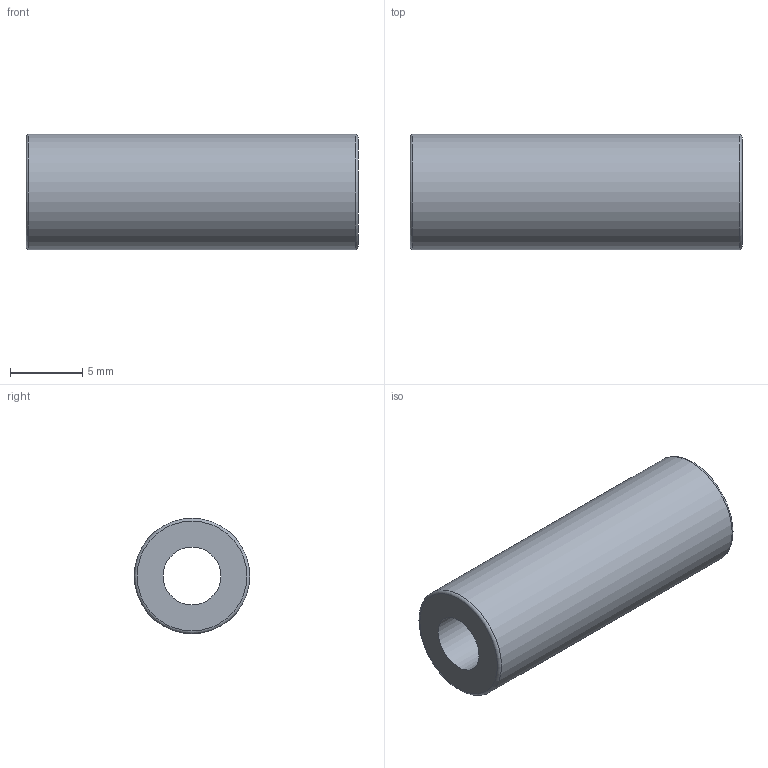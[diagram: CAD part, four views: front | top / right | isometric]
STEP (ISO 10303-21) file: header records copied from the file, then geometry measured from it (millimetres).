
FILE_DESCRIPTION(('FreeCAD Model'),'2;1');
FILE_NAME('Open CASCADE Shape Model','2021-05-03T11:01:35',('Author'),( ''),'Open CASCADE STEP processor 7.5','FreeCAD','Unknown');
FILE_SCHEMA(('AUTOMOTIVE_DESIGN { 1 0 10303 214 1 1 1 1 }'));
Length unit declared in the file: millimetre
Products named in the file (1): _LM4L
Bounding box: 23 x 8 x 8 mm (x, y, z)
Volume: 866.7 mm3; surface area: 938.1 mm2
Topology: 1 solids, 1 shells, 6 faces, 10 edges, 6 vertices
Faces by surface type: torus 2, plane 2, cylinder 2
Full cylindrical faces by diameter (mm): 4 x1, 8 x1
Entity records: 310 total; most frequent: CARTESIAN_POINT 69, DIRECTION 44, ORIENTED_EDGE 20, PCURVE 20, DEFINITIONAL_REPRESENTATION 20, LINE 16, VECTOR 16, AXIS2_PLACEMENT_3D 13
